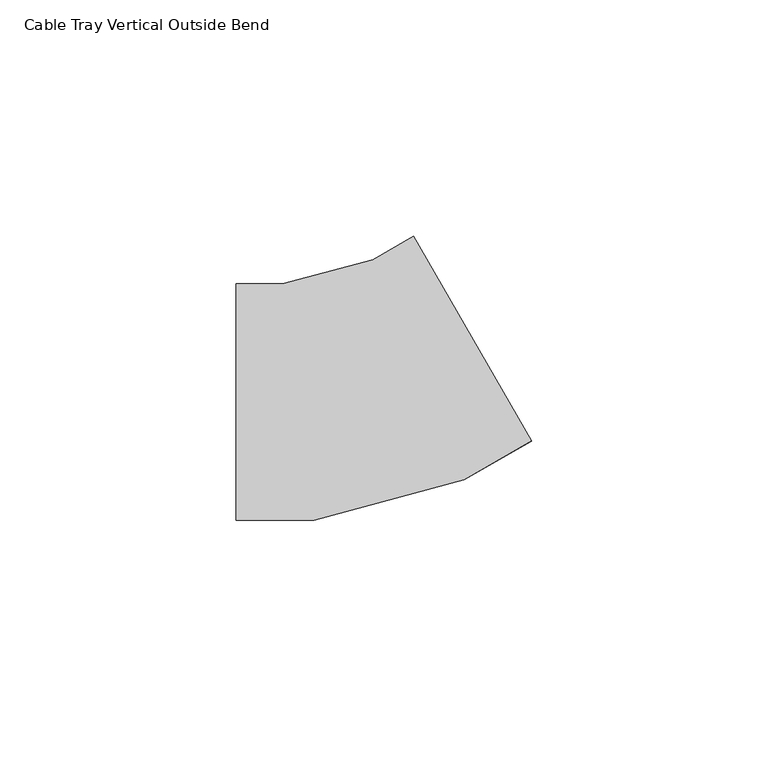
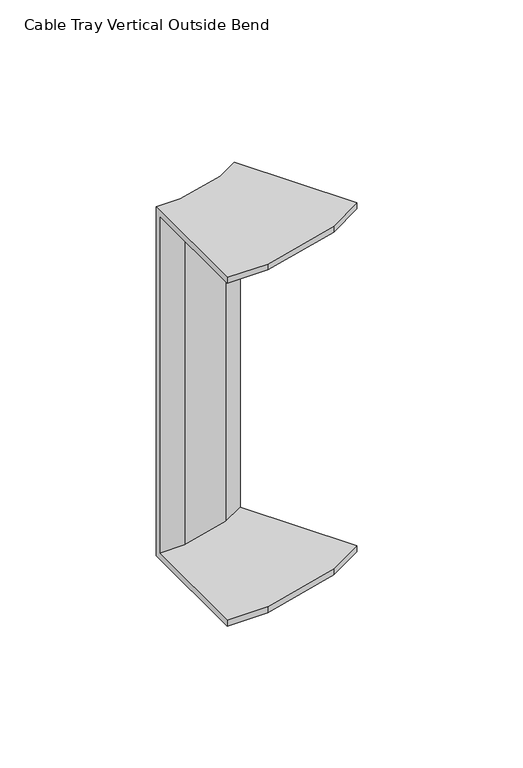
"""IFC4 building model written with IfcOpenShell, lengths in millimetres: cable carrier fitting geometry, Cable Tray Vertical Outside Bend : ELEC_ELV_CT_N2402."""

from ifc_helpers import new_model, si_unit, origin, place, context, project, spatial, faceted_brep, source, transform, mapped, element, save


def cable_tray_vertical_outside_bend_a0ea44ad(model_context):
    return source(origin(), model_context, "Body", "Brep", [
        faceted_brep([(-26.7995275, -25.0, 75.0), (-26.7995275, 25.0, 75.0), (-26.7995275, 25.0, -75.0), (-26.7995275, -25.0, -75.0), (-26.7995275, -25.0, -72.46), (-26.7995275, 22.46, -72.46), (-26.7995275, 22.46, 72.46), (-26.7995275, -25.0, 72.46), (35.709781, -8.2478007, 75.0), (35.709781, -8.2478007, 72.46), (11.9762467, 32.8517243, 72.46), (11.9762467, 32.8517243, -72.46), (35.709781, -8.2478007, -72.46), (35.709781, -8.2478007, -75.0), (10.7060576, 35.0513196, -75.0), (10.7060576, 35.0513196, 75.0), (-10.3402315, -25.0, 75.0), (21.4563202, -16.4786744, 75.0), (2.1539812, 30.1127954, 75.0), (-16.9239499, 25.0, 75.0), (-16.9239499, 25.0, -75.0), (2.1539812, 30.1127954, -75.0), (21.4563202, -16.4786744, -75.0), (-10.3402315, -25.0, -75.0), (-10.3402315, -25.0, -72.46), (21.4563202, -16.4786744, -72.46), (3.13454, 27.7459487, -72.46), (-16.589497, 22.46, -72.46), (-16.589497, 22.46, 72.46), (3.13454, 27.7459487, 72.46), (21.4563202, -16.4786744, 72.46), (-10.3402315, -25.0, 72.46)], [[[0, 1, 2, 3, 4, 5, 6, 7]], [[8, 9, 10, 11, 12, 13, 14, 15]], [[1, 0, 16, 17, 8, 15, 18, 19]], [[2, 1, 19, 20]], [[3, 2, 20, 21, 14, 13, 22, 23]], [[4, 3, 23, 24]], [[5, 4, 24, 25, 12, 11, 26, 27]], [[6, 5, 27, 28]], [[7, 6, 28, 29, 10, 9, 30, 31]], [[0, 7, 31, 16]], [[20, 19, 18, 21]], [[24, 23, 22, 25]], [[28, 27, 26, 29]], [[16, 31, 30, 17]], [[21, 18, 15, 14]], [[25, 22, 13, 12]], [[29, 26, 11, 10]], [[17, 30, 9, 8]]]),
    ])


if __name__ == "__main__":
    model = new_model("IFC4")
    model_context = context("Model", 3, world=origin())
    ifc_project = project(units=[si_unit("LENGTHUNIT", "METRE", prefix="MILLI")], contexts=[model_context])
    site = spatial("IfcSite", under=ifc_project)
    building = spatial("IfcBuilding", under=site)
    placement = place(None, origin())
    cable_tray_vertical_outside_bend_shape = cable_tray_vertical_outside_bend_a0ea44ad(model_context)
    element("IfcCableCarrierFitting", 1, ObjectType="Cable Tray Vertical Outside Bend : ELEC_ELV_CT_N2402", at=placement, inside=building, context=model_context, shape_type="MappedRepresentation", body=[
        mapped(cable_tray_vertical_outside_bend_shape, transform((0.0, 0.0, 0.0), x_axis=(1.0, 0.0, 0.0), y_axis=(0.0, 1.0, 0.0), z_axis=(0.0, 0.0, 1.0))),
    ])
    save(model, "model.ifc")
